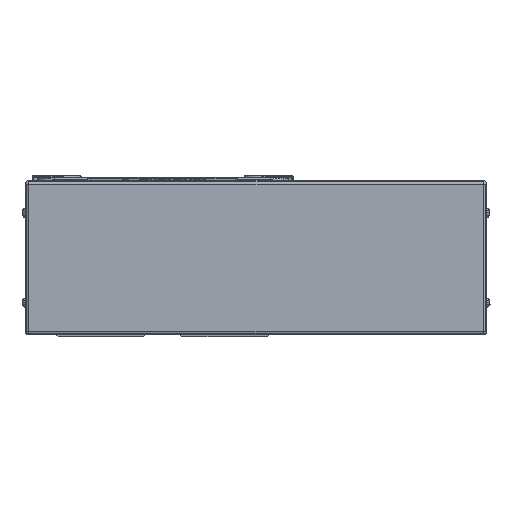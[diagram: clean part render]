
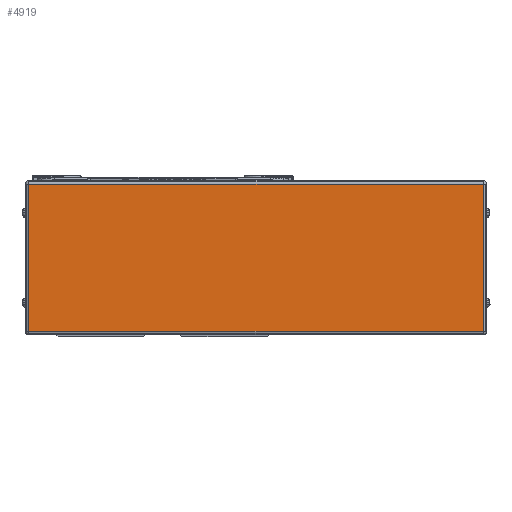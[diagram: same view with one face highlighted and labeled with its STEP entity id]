
A CAD part, left-side view. The second image highlights one B-rep face of the part: STEP entity #4919.
In plain terms, the highlighted planar face has unit normal (-1, 0, 0).
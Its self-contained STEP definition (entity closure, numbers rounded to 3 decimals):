
#4919=ADVANCED_FACE('',(#11584),#11585,.T.);
#11584=FACE_OUTER_BOUND('',#21244,.T.);
#11585=PLANE('',#21245);
#21244=EDGE_LOOP('',(#35114,#35115,#35116,#35117));
#21245=AXIS2_PLACEMENT_3D('',#35118,#35119,#35120);
#35114=ORIENTED_EDGE('',*,*,#57106,.F.);
#35115=ORIENTED_EDGE('',*,*,#57107,.F.);
#35116=ORIENTED_EDGE('',*,*,#57108,.F.);
#35117=ORIENTED_EDGE('',*,*,#57109,.F.);
#35118=CARTESIAN_POINT('',(-45.,-180.5,0.));
#35119=DIRECTION('',(-1.0,0.,0.));
#35120=DIRECTION('',(0.,0.,1.0));
#57106=EDGE_CURVE('',#69682,#64886,#69683,.T.);
#57107=EDGE_CURVE('',#69684,#69682,#69685,.T.);
#57108=EDGE_CURVE('',#67193,#69684,#69686,.T.);
#57109=EDGE_CURVE('',#64886,#67193,#69687,.T.);
#64886=VERTEX_POINT('',#79857);
#67193=VERTEX_POINT('',#83142);
#69682=VERTEX_POINT('',#86748);
#69683=LINE('',#86749,#86750);
#69684=VERTEX_POINT('',#86751);
#69685=LINE('',#86752,#86753);
#69686=LINE('',#86754,#86755);
#69687=LINE('',#86756,#86757);
#79857=CARTESIAN_POINT('',(-45.,-178.5,-41.));
#83142=CARTESIAN_POINT('',(-45.,74.5,-41.));
#86748=CARTESIAN_POINT('',(-45.,-178.5,41.));
#86749=CARTESIAN_POINT('',(-45.,-178.5,0.));
#86750=VECTOR('',#103175,10.0);
#86751=CARTESIAN_POINT('',(-45.,74.5,41.));
#86752=CARTESIAN_POINT('',(-45.,-180.5,41.));
#86753=VECTOR('',#103176,10.0);
#86754=CARTESIAN_POINT('',(-45.,74.5,0.));
#86755=VECTOR('',#103177,10.0);
#86756=CARTESIAN_POINT('',(-45.,-180.5,-41.));
#86757=VECTOR('',#103178,10.0);
#103175=DIRECTION('',(0.,0.,-1.0));
#103176=DIRECTION('',(0.,-1.0,0.));
#103177=DIRECTION('',(0.,0.,1.0));
#103178=DIRECTION('',(0.,1.0,0.));
